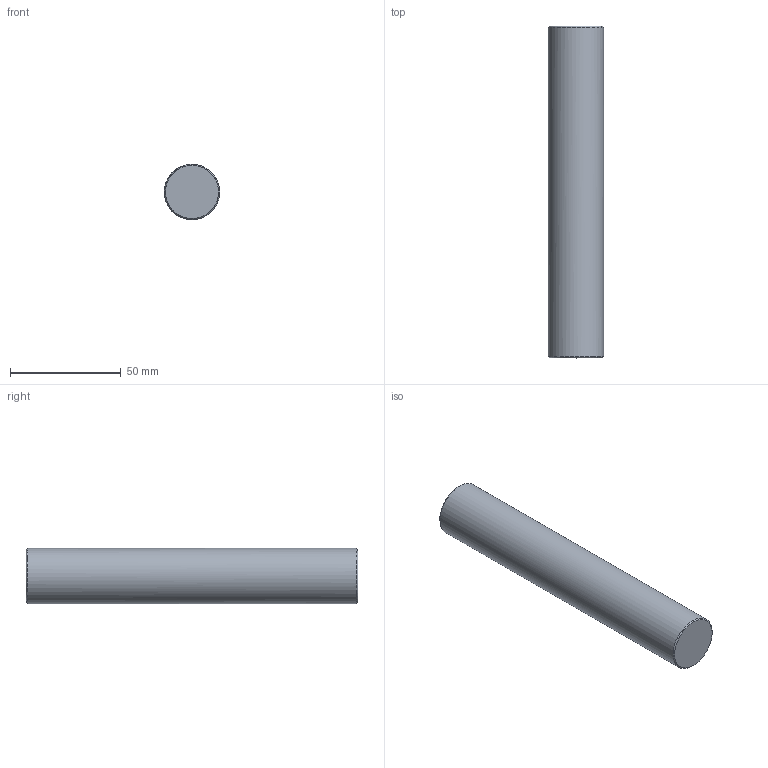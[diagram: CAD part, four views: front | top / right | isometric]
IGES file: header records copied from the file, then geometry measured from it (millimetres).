
Global section: file name: BM00-25D-150L; native system: unknown; preprocessor: unknown; author: unknown; organization: unknown; date: 20231024.132910; units: millimetre
Bounding box: 24.99 x 150 x 25 mm (x, y, z)
Volume: 73742.7 mm3; surface area: 12736.8 mm2
Topology: 1 solids, 1 shells, 5 faces, 7 edges, 4 vertices
Faces by surface type: bspline 5
